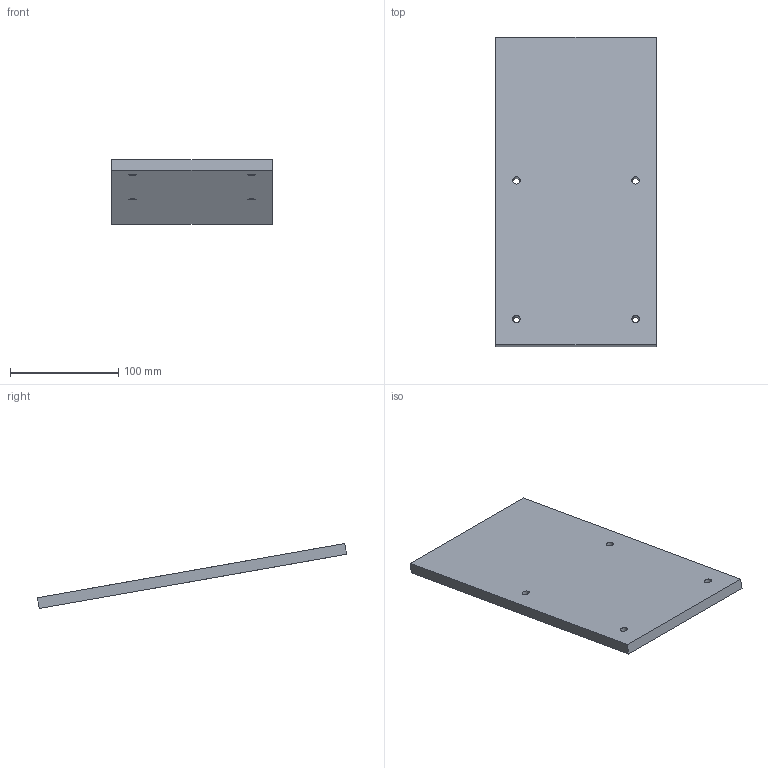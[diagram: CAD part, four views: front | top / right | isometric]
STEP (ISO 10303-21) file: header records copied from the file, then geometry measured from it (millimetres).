
FILE_DESCRIPTION(('golf model'),'2;1');
FILE_NAME('golf','',(''),(''),'golf_step_io','golf','');
FILE_SCHEMA(('AUTOMOTIVE_DESIGN { 1 0 10303 214 1 1 1 1 }'));
Length unit declared in the file: millimetre
Products named in the file (2): ASSEMBLY; gantry_frame.cap_top
Assembly tree (1 placements, depth 2):
  ASSEMBLY
    gantry_frame.cap_top
Bounding box: 148 x 285.36 x 59.86 mm (x, y, z)
Volume: 424787.3 mm3; surface area: 94532 mm2
Topology: 1 solids, 1 shells, 10 faces, 24 edges, 16 vertices
Faces by surface type: plane 6, cylinder 4
Full cylindrical faces by diameter (mm): 6.8 x4
Entity records: 326 total; most frequent: DIRECTION 52, CARTESIAN_POINT 48, ORIENTED_EDGE 40, EDGE_LOOP 22, AXIS2_PLACEMENT_3D 20, EDGE_CURVE 20, FACE_BOUND 20, VERTEX_POINT 16
